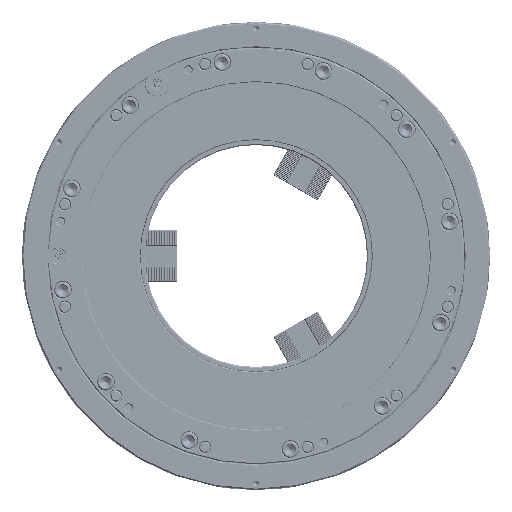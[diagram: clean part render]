
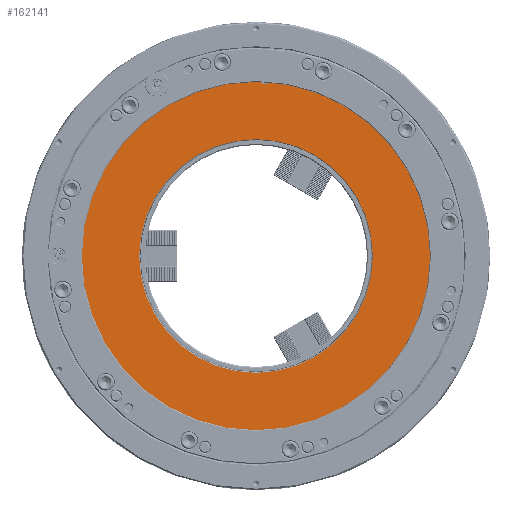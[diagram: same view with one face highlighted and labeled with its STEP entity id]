
A CAD part, left-side view. The second image highlights one B-rep face of the part: STEP entity #162141.
In plain terms, the highlighted planar face has unit normal (-1, 0, 0).
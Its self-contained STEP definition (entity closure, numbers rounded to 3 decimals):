
#1442 = DIRECTION ( 'NONE',  ( 0., 0., -1. ) ) ;
#3652 = PLANE ( 'NONE',  #258967 ) ;
#4059 = VERTEX_POINT ( 'NONE', #253631 ) ;
#5342 = CARTESIAN_POINT ( 'NONE',  ( -275., 171., 0. ) ) ;
#27487 = DIRECTION ( 'NONE',  ( 0., -0.999, -0.052 ) ) ;
#30127 = CARTESIAN_POINT ( 'NONE',  ( -275., 5.462, -8.676 ) ) ;
#31160 = ORIENTED_EDGE ( 'NONE', *, *, #54134, .F. ) ;
#36328 = ORIENTED_EDGE ( 'NONE', *, *, #118843, .F. ) ;
#36931 = EDGE_CURVE ( 'NONE', #160926, #182403, #60849, .T. ) ;
#42991 = AXIS2_PLACEMENT_3D ( 'NONE', #146070, #203814, #47218 ) ;
#47218 = DIRECTION ( 'NONE',  ( 0., 0., -1. ) ) ;
#54134 = EDGE_CURVE ( 'NONE', #182403, #4059, #103524, .T. ) ;
#54773 = FACE_BOUND ( 'NONE', #280485, .T. ) ;
#58152 = DIRECTION ( 'NONE',  ( -1., 0., 0. ) ) ;
#60849 = CIRCLE ( 'NONE', #229317, 255. ) ;
#61882 = VECTOR ( 'NONE', #231209, 1000. ) ;
#74064 = EDGE_CURVE ( 'NONE', #326702, #283767, #275432, .T. ) ;
#80532 = CARTESIAN_POINT ( 'NONE',  ( -275., 0., 0. ) ) ;
#82944 = CIRCLE ( 'NONE', #262237, 171. ) ;
#100092 = CARTESIAN_POINT ( 'NONE',  ( -275., 0., 0. ) ) ;
#102087 = CARTESIAN_POINT ( 'NONE',  ( -275., 0., 0. ) ) ;
#103524 = LINE ( 'NONE', #30127, #61882 ) ;
#107828 = CIRCLE ( 'NONE', #162219, 171. ) ;
#109606 = AXIS2_PLACEMENT_3D ( 'NONE', #248494, #119144, #226343 ) ;
#118843 = EDGE_CURVE ( 'NONE', #321959, #160926, #174688, .T. ) ;
#119144 = DIRECTION ( 'NONE',  ( 1., 0., 0. ) ) ;
#129773 = DIRECTION ( 'NONE',  ( 0., 0., 1. ) ) ;
#141825 = CARTESIAN_POINT ( 'NONE',  ( -275., -18.208, 251.892 ) ) ;
#146070 = CARTESIAN_POINT ( 'NONE',  ( -275., 0., 0. ) ) ;
#147025 = VERTEX_POINT ( 'NONE', #187373 ) ;
#147131 = ORIENTED_EDGE ( 'NONE', *, *, #36931, .F. ) ;
#160926 = VERTEX_POINT ( 'NONE', #239001 ) ;
#162141 = ADVANCED_FACE ( 'NONE', ( #289736, #54773 ), #3652, .T. ) ;
#162219 = AXIS2_PLACEMENT_3D ( 'NONE', #102087, #176962, #1442 ) ;
#174688 = CIRCLE ( 'NONE', #109606, 255. ) ;
#175838 = ORIENTED_EDGE ( 'NONE', *, *, #295354, .T. ) ;
#176962 = DIRECTION ( 'NONE',  ( 1., 0., 0. ) ) ;
#182403 = VERTEX_POINT ( 'NONE', #306633 ) ;
#187373 = CARTESIAN_POINT ( 'NONE',  ( -275., 0., -171. ) ) ;
#190302 = CARTESIAN_POINT ( 'NONE',  ( -275., 0., -255. ) ) ;
#193740 = DIRECTION ( 'NONE',  ( 0., -0.052, 0.999 ) ) ;
#195745 = ORIENTED_EDGE ( 'NONE', *, *, #74064, .F. ) ;
#203814 = DIRECTION ( 'NONE',  ( 1., 0., 0. ) ) ;
#203866 = DIRECTION ( 'NONE',  ( 1., 0., 0. ) ) ;
#205079 = ORIENTED_EDGE ( 'NONE', *, *, #254281, .T. ) ;
#211385 = CARTESIAN_POINT ( 'NONE',  ( -275., 157.317, 261.091 ) ) ;
#224351 = CARTESIAN_POINT ( 'NONE',  ( -275., -4.525, -9.199 ) ) ;
#225853 = ORIENTED_EDGE ( 'NONE', *, *, #229358, .F. ) ;
#226343 = DIRECTION ( 'NONE',  ( 0., 0., -1. ) ) ;
#229317 = AXIS2_PLACEMENT_3D ( 'NONE', #100092, #203866, #307786 ) ;
#229358 = EDGE_CURVE ( 'NONE', #283767, #321959, #320382, .T. ) ;
#231209 = DIRECTION ( 'NONE',  ( 0., 0.052, -0.999 ) ) ;
#231911 = ORIENTED_EDGE ( 'NONE', *, *, #274762, .F. ) ;
#231932 = LINE ( 'NONE', #211385, #291493 ) ;
#232030 = EDGE_LOOP ( 'NONE', ( #195745, #231911, #31160, #147131, #36328, #225853 ) ) ;
#235426 = DIRECTION ( 'NONE',  ( 1., 0., 0. ) ) ;
#239001 = CARTESIAN_POINT ( 'NONE',  ( -275., 0., 255. ) ) ;
#248494 = CARTESIAN_POINT ( 'NONE',  ( -275., 0., 0. ) ) ;
#253631 = CARTESIAN_POINT ( 'NONE',  ( -275., -8.222, 252.416 ) ) ;
#254281 = EDGE_CURVE ( 'NONE', #319446, #147025, #107828, .T. ) ;
#258967 = AXIS2_PLACEMENT_3D ( 'NONE', #5342, #58152, #129773 ) ;
#262237 = AXIS2_PLACEMENT_3D ( 'NONE', #80532, #235426, #284841 ) ;
#274762 = EDGE_CURVE ( 'NONE', #4059, #326702, #231932, .T. ) ;
#275432 = LINE ( 'NONE', #224351, #303325 ) ;
#280485 = EDGE_LOOP ( 'NONE', ( #205079, #175838 ) ) ;
#283767 = VERTEX_POINT ( 'NONE', #306413 ) ;
#284841 = DIRECTION ( 'NONE',  ( 0., 0., -1. ) ) ;
#289736 = FACE_OUTER_BOUND ( 'NONE', #232030, .T. ) ;
#291493 = VECTOR ( 'NONE', #27487, 1000. ) ;
#295354 = EDGE_CURVE ( 'NONE', #147025, #319446, #82944, .T. ) ;
#303325 = VECTOR ( 'NONE', #193740, 1000. ) ;
#306413 = CARTESIAN_POINT ( 'NONE',  ( -275., -18.336, 254.34 ) ) ;
#306633 = CARTESIAN_POINT ( 'NONE',  ( -275., -8.35, 254.863 ) ) ;
#307786 = DIRECTION ( 'NONE',  ( 0., 0., -1. ) ) ;
#318433 = CARTESIAN_POINT ( 'NONE',  ( -275., 0., 171. ) ) ;
#319446 = VERTEX_POINT ( 'NONE', #318433 ) ;
#320382 = CIRCLE ( 'NONE', #42991, 255. ) ;
#321959 = VERTEX_POINT ( 'NONE', #190302 ) ;
#326702 = VERTEX_POINT ( 'NONE', #141825 ) ;
